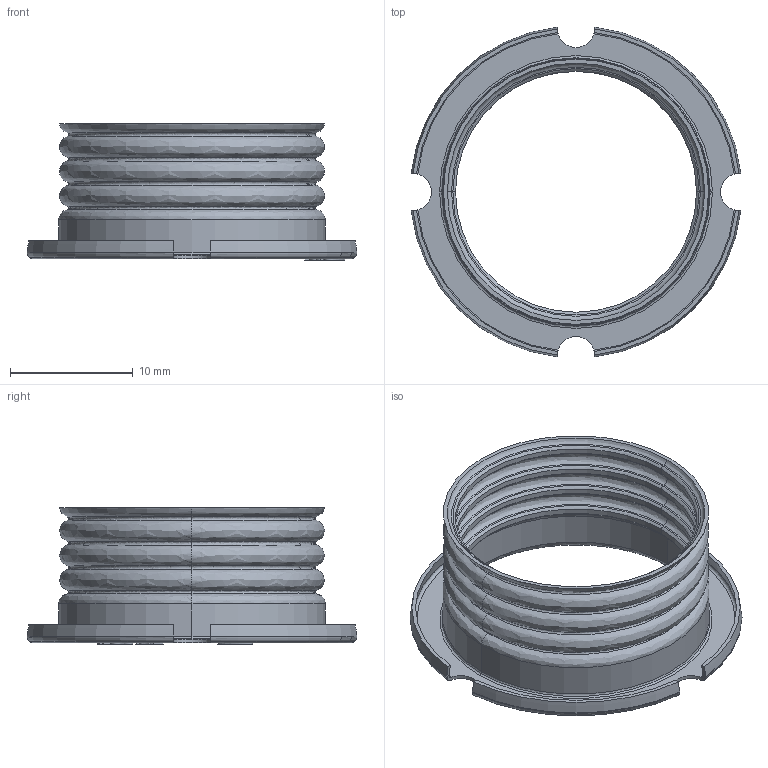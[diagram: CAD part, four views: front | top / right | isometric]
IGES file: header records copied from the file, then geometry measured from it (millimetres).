
Global section: file name: C:\CoreTechnologie\3D-in\003YK1KY04.igs; native system: CT CoreTechnologie 3D Evolution; preprocessor: 2006; author: ÐÍâ/; date: 1171020.122245; units: millimetre
Bounding box: 26.84 x 26.84 x 11.1 mm (x, y, z)
Volume: 339.7 mm3; surface area: 2348.2 mm2
Topology: 1 solids, 1 shells, 252 faces, 623 edges, 392 vertices
Faces by surface type: revolution 147, plane 84, bspline 21
